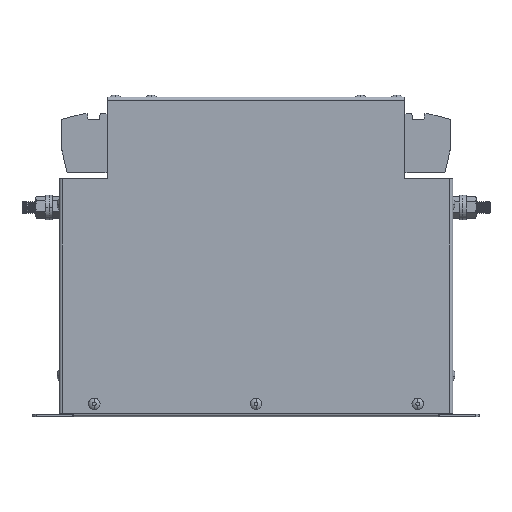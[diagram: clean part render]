
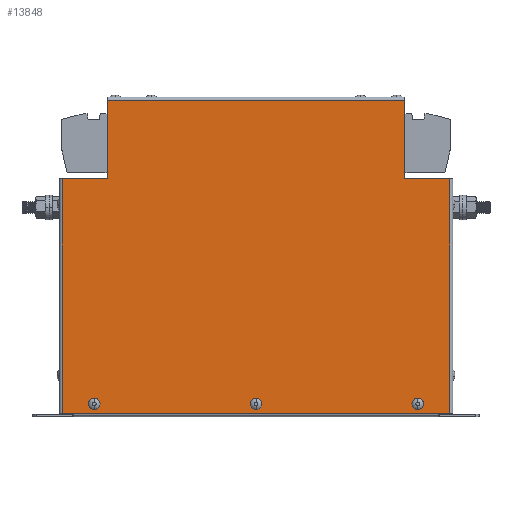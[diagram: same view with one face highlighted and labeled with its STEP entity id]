
A CAD part, top view. The second image highlights one B-rep face of the part: STEP entity #13848.
In plain terms, the highlighted planar face has unit normal (0, 0, 1).
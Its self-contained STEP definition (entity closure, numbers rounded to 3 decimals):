
#258 = AXIS2_PLACEMENT_3D ( 'NONE', #6253, #1344, #8614 ) ;
#393 = AXIS2_PLACEMENT_3D ( 'NONE', #3160, #697, #15163 ) ;
#693 = CIRCLE ( 'NONE', #258, 1.75 ) ;
#697 = DIRECTION ( 'NONE',  ( 0., 0., 1. ) ) ;
#815 = VERTEX_POINT ( 'NONE', #3880 ) ;
#989 = AXIS2_PLACEMENT_3D ( 'NONE', #14819, #7668, #13475 ) ;
#1115 = CIRCLE ( 'NONE', #13366, 1.75 ) ;
#1182 = DIRECTION ( 'NONE',  ( 1., 0., 0. ) ) ;
#1343 = CARTESIAN_POINT ( 'NONE',  ( 0., -77.55, 0. ) ) ;
#1344 = DIRECTION ( 'NONE',  ( 0., 0., 1. ) ) ;
#1749 = CARTESIAN_POINT ( 'NONE',  ( -1.75, -77.55, 0. ) ) ;
#1928 = ORIENTED_EDGE ( 'NONE', *, *, #1951, .F. ) ;
#1951 = EDGE_CURVE ( 'NONE', #6763, #3250, #10852, .T. ) ;
#2009 = CIRCLE ( 'NONE', #6167, 1.75 ) ;
#2123 = VECTOR ( 'NONE', #13711, 1000. ) ;
#2135 = VERTEX_POINT ( 'NONE', #1749 ) ;
#2335 = VERTEX_POINT ( 'NONE', #4587 ) ;
#2418 = CARTESIAN_POINT ( 'NONE',  ( 85., -77.55, 0. ) ) ;
#2435 = LINE ( 'NONE', #4800, #15387 ) ;
#2604 = VERTEX_POINT ( 'NONE', #6439 ) ;
#2698 = DIRECTION ( 'NONE',  ( 1., 0., 0. ) ) ;
#2798 = VERTEX_POINT ( 'NONE', #12521 ) ;
#3160 = CARTESIAN_POINT ( 'NONE',  ( 0., 0., 0. ) ) ;
#3184 = ORIENTED_EDGE ( 'NONE', *, *, #12341, .T. ) ;
#3250 = VERTEX_POINT ( 'NONE', #4387 ) ;
#3393 = CARTESIAN_POINT ( 'NONE',  ( 101.8, -82.55, 0. ) ) ;
#3499 = ORIENTED_EDGE ( 'NONE', *, *, #10327, .F. ) ;
#3546 = CARTESIAN_POINT ( 'NONE',  ( -102.3, -82.55, 0. ) ) ;
#3633 = CARTESIAN_POINT ( 'NONE',  ( 78.3, 82.55, 0. ) ) ;
#3880 = CARTESIAN_POINT ( 'NONE',  ( -78.3, 40.75, 0. ) ) ;
#3916 = DIRECTION ( 'NONE',  ( 0., 0., 1. ) ) ;
#3992 = ORIENTED_EDGE ( 'NONE', *, *, #11620, .F. ) ;
#4007 = CARTESIAN_POINT ( 'NONE',  ( 101.8, -82.55, 0. ) ) ;
#4170 = VERTEX_POINT ( 'NONE', #14472 ) ;
#4387 = CARTESIAN_POINT ( 'NONE',  ( -83.25, -77.55, 0. ) ) ;
#4464 = CARTESIAN_POINT ( 'NONE',  ( 78.3, 82.05, 0. ) ) ;
#4587 = CARTESIAN_POINT ( 'NONE',  ( 78.3, 82.05, 0. ) ) ;
#4683 = AXIS2_PLACEMENT_3D ( 'NONE', #7400, #13471, #14755 ) ;
#4704 = CARTESIAN_POINT ( 'NONE',  ( 83.25, -77.55, 0. ) ) ;
#4800 = CARTESIAN_POINT ( 'NONE',  ( 102.3, 40.75, 0. ) ) ;
#4821 = ORIENTED_EDGE ( 'NONE', *, *, #5062, .F. ) ;
#4917 = CARTESIAN_POINT ( 'NONE',  ( -102.3, 40.75, 0. ) ) ;
#5062 = EDGE_CURVE ( 'NONE', #2335, #2604, #9261, .T. ) ;
#5144 = EDGE_LOOP ( 'NONE', ( #3992, #1928 ) ) ;
#5553 = DIRECTION ( 'NONE',  ( 0., -1., 0. ) ) ;
#5620 = EDGE_LOOP ( 'NONE', ( #9944, #6831 ) ) ;
#5784 = EDGE_CURVE ( 'NONE', #2604, #2798, #2435, .T. ) ;
#5811 = LINE ( 'NONE', #4464, #14613 ) ;
#6152 = VERTEX_POINT ( 'NONE', #14633 ) ;
#6167 = AXIS2_PLACEMENT_3D ( 'NONE', #1343, #3916, #2698 ) ;
#6253 = CARTESIAN_POINT ( 'NONE',  ( -85., -77.55, 0. ) ) ;
#6410 = CARTESIAN_POINT ( 'NONE',  ( -86.75, -77.55, 0. ) ) ;
#6439 = CARTESIAN_POINT ( 'NONE',  ( 78.3, 40.75, 0. ) ) ;
#6659 = FACE_BOUND ( 'NONE', #5144, .T. ) ;
#6700 = DIRECTION ( 'NONE',  ( 0., 0., 1. ) ) ;
#6723 = EDGE_CURVE ( 'NONE', #7746, #14012, #1115, .T. ) ;
#6759 = EDGE_CURVE ( 'NONE', #2135, #4170, #11847, .T. ) ;
#6763 = VERTEX_POINT ( 'NONE', #6410 ) ;
#6831 = ORIENTED_EDGE ( 'NONE', *, *, #6759, .F. ) ;
#6851 = DIRECTION ( 'NONE',  ( 1., 0., 0. ) ) ;
#7129 = CIRCLE ( 'NONE', #14895, 1.75 ) ;
#7304 = EDGE_CURVE ( 'NONE', #2335, #11277, #5811, .T. ) ;
#7400 = CARTESIAN_POINT ( 'NONE',  ( -85., -77.55, 0. ) ) ;
#7422 = EDGE_CURVE ( 'NONE', #4170, #2135, #2009, .T. ) ;
#7466 = ORIENTED_EDGE ( 'NONE', *, *, #8234, .F. ) ;
#7668 = DIRECTION ( 'NONE',  ( 0., 0., 1. ) ) ;
#7706 = VECTOR ( 'NONE', #14547, 1000. ) ;
#7746 = VERTEX_POINT ( 'NONE', #9348 ) ;
#7938 = PLANE ( 'NONE',  #393 ) ;
#8129 = LINE ( 'NONE', #3546, #12985 ) ;
#8234 = EDGE_CURVE ( 'NONE', #14012, #7746, #7129, .T. ) ;
#8362 = EDGE_LOOP ( 'NONE', ( #11842, #7466 ) ) ;
#8614 = DIRECTION ( 'NONE',  ( 1., 0., 0. ) ) ;
#8709 = DIRECTION ( 'NONE',  ( 0., 1., 0. ) ) ;
#9032 = CARTESIAN_POINT ( 'NONE',  ( -101.8, 40.75, 0. ) ) ;
#9261 = LINE ( 'NONE', #3633, #10215 ) ;
#9274 = ORIENTED_EDGE ( 'NONE', *, *, #12932, .F. ) ;
#9348 = CARTESIAN_POINT ( 'NONE',  ( 86.75, -77.55, 0. ) ) ;
#9521 = EDGE_CURVE ( 'NONE', #11343, #6152, #12753, .T. ) ;
#9944 = ORIENTED_EDGE ( 'NONE', *, *, #7422, .F. ) ;
#10215 = VECTOR ( 'NONE', #14391, 1000. ) ;
#10253 = ORIENTED_EDGE ( 'NONE', *, *, #9521, .T. ) ;
#10327 = EDGE_CURVE ( 'NONE', #11343, #815, #13692, .T. ) ;
#10497 = CARTESIAN_POINT ( 'NONE',  ( -101.8, 40.75, 0. ) ) ;
#10801 = DIRECTION ( 'NONE',  ( 0., 0., 1. ) ) ;
#10836 = DIRECTION ( 'NONE',  ( 1., 0., 0. ) ) ;
#10852 = CIRCLE ( 'NONE', #4683, 1.75 ) ;
#11277 = VERTEX_POINT ( 'NONE', #11360 ) ;
#11343 = VERTEX_POINT ( 'NONE', #10497 ) ;
#11360 = CARTESIAN_POINT ( 'NONE',  ( -78.3, 82.05, 0. ) ) ;
#11365 = CARTESIAN_POINT ( 'NONE',  ( -78.3, 82.55, 0. ) ) ;
#11486 = VERTEX_POINT ( 'NONE', #3393 ) ;
#11620 = EDGE_CURVE ( 'NONE', #3250, #6763, #693, .T. ) ;
#11756 = ORIENTED_EDGE ( 'NONE', *, *, #7304, .T. ) ;
#11839 = DIRECTION ( 'NONE',  ( -1., 0., 0. ) ) ;
#11842 = ORIENTED_EDGE ( 'NONE', *, *, #6723, .F. ) ;
#11847 = CIRCLE ( 'NONE', #989, 1.75 ) ;
#12028 = DIRECTION ( 'NONE',  ( 1., 0., 0. ) ) ;
#12159 = VECTOR ( 'NONE', #8709, 1000. ) ;
#12341 = EDGE_CURVE ( 'NONE', #11486, #2798, #15478, .T. ) ;
#12521 = CARTESIAN_POINT ( 'NONE',  ( 101.8, 40.75, 0. ) ) ;
#12616 = ORIENTED_EDGE ( 'NONE', *, *, #5784, .F. ) ;
#12635 = VECTOR ( 'NONE', #5553, 1000. ) ;
#12753 = LINE ( 'NONE', #9032, #12635 ) ;
#12932 = EDGE_CURVE ( 'NONE', #815, #11277, #15271, .T. ) ;
#12985 = VECTOR ( 'NONE', #12028, 1000. ) ;
#13027 = FACE_BOUND ( 'NONE', #5620, .T. ) ;
#13366 = AXIS2_PLACEMENT_3D ( 'NONE', #2418, #10801, #1182 ) ;
#13386 = EDGE_LOOP ( 'NONE', ( #3499, #10253, #14169, #3184, #12616, #4821, #11756, #9274 ) ) ;
#13471 = DIRECTION ( 'NONE',  ( 0., 0., 1. ) ) ;
#13475 = DIRECTION ( 'NONE',  ( 1., 0., 0. ) ) ;
#13692 = LINE ( 'NONE', #4917, #7706 ) ;
#13711 = DIRECTION ( 'NONE',  ( 0., 1., 0. ) ) ;
#13848 = ADVANCED_FACE ( 'NONE', ( #6659, #15254, #13027, #15435 ), #7938, .T. ) ;
#14012 = VERTEX_POINT ( 'NONE', #4704 ) ;
#14169 = ORIENTED_EDGE ( 'NONE', *, *, #15315, .T. ) ;
#14391 = DIRECTION ( 'NONE',  ( 0., -1., 0. ) ) ;
#14472 = CARTESIAN_POINT ( 'NONE',  ( 1.75, -77.55, 0. ) ) ;
#14547 = DIRECTION ( 'NONE',  ( 1., 0., 0. ) ) ;
#14613 = VECTOR ( 'NONE', #11839, 1000. ) ;
#14633 = CARTESIAN_POINT ( 'NONE',  ( -101.8, -82.55, 0. ) ) ;
#14755 = DIRECTION ( 'NONE',  ( 1., 0., 0. ) ) ;
#14819 = CARTESIAN_POINT ( 'NONE',  ( 0., -77.55, 0. ) ) ;
#14895 = AXIS2_PLACEMENT_3D ( 'NONE', #15204, #6700, #6851 ) ;
#15163 = DIRECTION ( 'NONE',  ( 1., 0., 0. ) ) ;
#15204 = CARTESIAN_POINT ( 'NONE',  ( 85., -77.55, 0. ) ) ;
#15254 = FACE_BOUND ( 'NONE', #8362, .T. ) ;
#15271 = LINE ( 'NONE', #11365, #2123 ) ;
#15315 = EDGE_CURVE ( 'NONE', #6152, #11486, #8129, .T. ) ;
#15387 = VECTOR ( 'NONE', #10836, 1000. ) ;
#15435 = FACE_OUTER_BOUND ( 'NONE', #13386, .T. ) ;
#15478 = LINE ( 'NONE', #4007, #12159 ) ;
